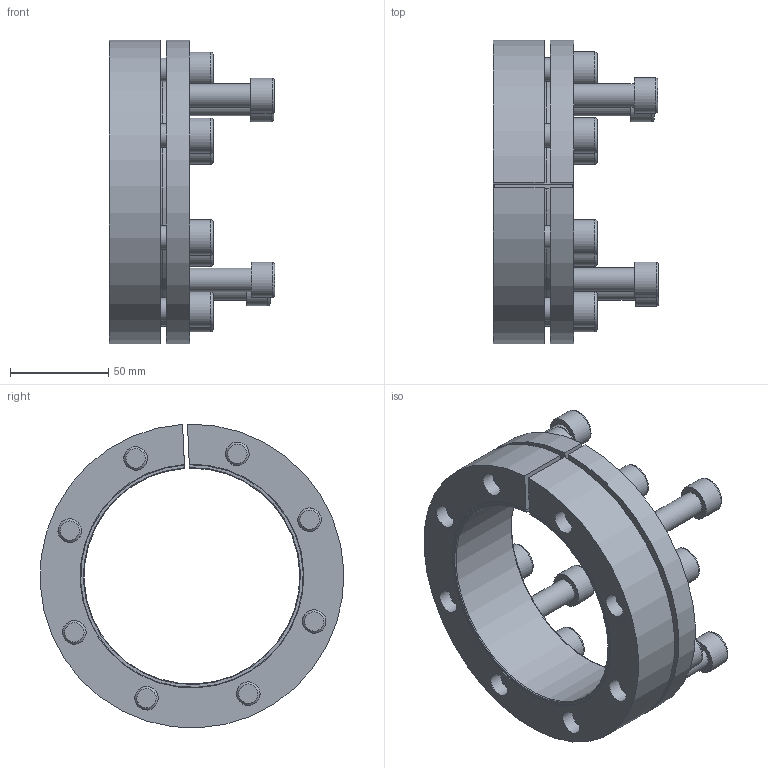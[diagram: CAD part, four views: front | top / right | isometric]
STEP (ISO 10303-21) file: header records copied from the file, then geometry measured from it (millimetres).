
FILE_DESCRIPTION((''),'2;1');
FILE_NAME('M:\Disegni 3D\CALETTATORI\RCK 13\110x155 - 06130110\Assieme.stp','2015-12-16T12:07:11',('fabietto'),(''),'Autodesk Inventor 2013','Autodesk Inventor 2013','');
FILE_SCHEMA(('AUTOMOTIVE_DESIGN { 1 0 10303 214 1 1 1 1 }'));
Length unit declared in the file: millimetre
Products named in the file (5): Assieme; Anello esterno; DIN 912 - sostituito da DIN EN ISO 4762 M12 x 35; Parte1
Assembly tree (14 placements, depth 2):
  Assieme
    Anello esterno
    DIN 912 - sostituito da DIN EN ISO 4762 M12 x 35  x8
    DIN 912 - sostituito da DIN EN ISO 4762 M12 x 35  x4
    Parte1
Bounding box: 84.45 x 154.83 x 154.89 mm (x, y, z)
Volume: 394991.7 mm3; surface area: 129263.6 mm2
Topology: 14 solids, 14 shells, 220 faces, 492 edges, 312 vertices
Faces by surface type: plane 117, cylinder 49, cone 30, torus 24
Full cylindrical faces by diameter (mm): 12 x24, 13 x8, 18 x12
Entity records: 2213 total; most frequent: DIRECTION 372, CARTESIAN_POINT 365, ORIENTED_EDGE 276, AXIS2_PLACEMENT_3D 159, EDGE_LOOP 144, EDGE_CURVE 138, VERTEX_POINT 110, FACE_BOUND 74
